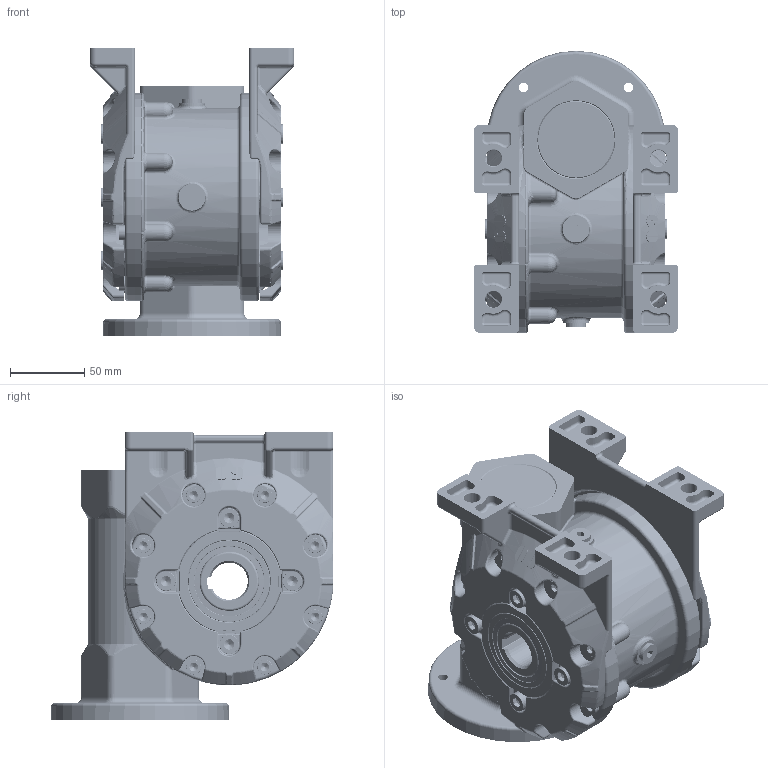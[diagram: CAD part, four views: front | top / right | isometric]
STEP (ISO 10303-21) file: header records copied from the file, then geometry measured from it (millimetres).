
FILE_DESCRIPTION (( 'STEP AP214' ), '1' );
FILE_NAME ('Sestava MRT60A-V.STEP', '2007-03-28T11:33:29', ( '' ), ( '' ), 'SwSTEP 2.0', 'SolidWorks 2004146', '' );
FILE_SCHEMA (( 'AUTOMOTIVE_DESIGN' ));
Products named in the file (18): Šnekové kolo MRT60_Výchozí; pøíruba 100-60_Výchozí; Circlip for Bores normal_din_Circlip DIN 472 - 52 x 2; ZatkaM10x1DIN908_M10x1; N024630_Ložisko SKF 6008 ÈSN 024630; N024720_Ložisko SKF 32006 X ÈSN 024720; n029401b_Tìsnìní AS 40x55x7 DIN 3760-NB; NBRvíèko_52x7; N024720_Ložisko SKF 30205 ÈSN 024720; n029401b_Tìsnìní AS 30x47x7 DIN 3760-NB; D6912_Šroub DIN 6912 - M8x16; D6912_Šroub DIN 6912 - M6x16; D6912_Šroub DIN 6912 - M6x12; Sestava MRT60A-V; Adaptér patky 60_Výchozí; Snek_60_Výchozí; Pøíruba FT60_Výchozí; skøíò 60_Výchozí
Assembly tree (40 placements, depth 2):
  Sestava MRT60A-V
    D6912_Šroub DIN 6912 - M8x16  x8
    Šnekové kolo MRT60_Výchozí
    ZatkaM10x1DIN908_M10x1  x2
    D6912_Šroub DIN 6912 - M6x12  x8
    Adaptér patky 60_Výchozí  x2
    Snek_60_Výchozí
    D6912_Šroub DIN 6912 - M6x16  x6
    n029401b_Tìsnìní AS 40x55x7 DIN 3760-NB  x2
    N024630_Ložisko SKF 6008 ÈSN 024630  x2
    Circlip for Bores normal_din_Circlip DIN 472 - 52 x 2
    N024720_Ložisko SKF 32006 X ÈSN 024720
    NBRvíèko_52x7
    pøíruba 100-60_Výchozí
    n029401b_Tìsnìní AS 30x47x7 DIN 3760-NB
    skøíò 60_Výchozí
    Pøíruba FT60_Výchozí
    N024720_Ložisko SKF 30205 ÈSN 024720
Bounding box: 137 x 190 x 193 mm (x, y, z)
Volume: 1433162.9 mm3; surface area: 491463.6 mm2
Topology: 40 solids, 42 shells, 4932 faces, 12009 edges, 6783 vertices
Faces by surface type: cylinder 1187, torus 1060, bspline 957, plane 872, cone 668, sphere 188
Entity records: 379127 total; most frequent: CARTESIAN_POINT 303093, ORIENTED_EDGE 16154, DIRECTION 15643, EDGE_CURVE 8077, AXIS2_PLACEMENT_3D 6950, VERTEX_POINT 4770, CIRCLE 4244, EDGE_LOOP 3527
